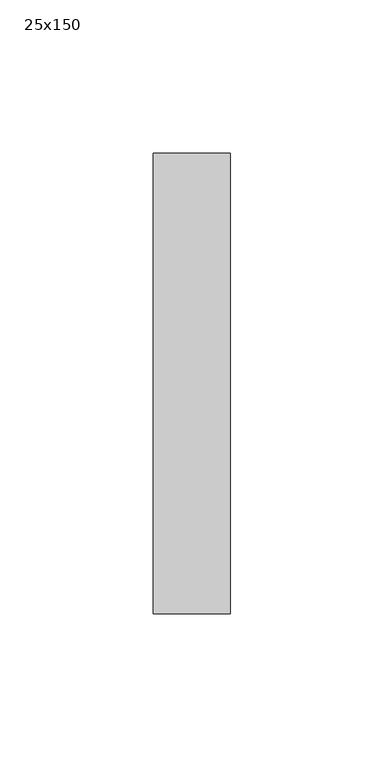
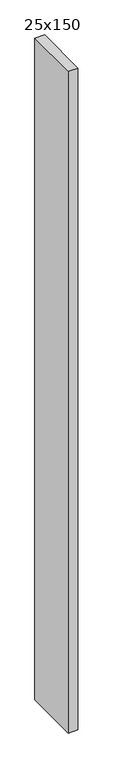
"""IFC4 building model written with IfcOpenShell, lengths in millimetres: member geometry, 長方形のマリオン : 25x150."""

from ifc_helpers import new_model, si_unit, frame, origin, place, context, project, spatial, polyline, outline, extrude, source, transform, mapped, element, save


def member_25x150_f694351b(model_context):
    return source(origin(), model_context, "Body", "SweptSolid", [
        extrude(outline(polyline([(0.0, 75.0), (0.0, -75.0), (-25.0, -75.0), (-25.0, 75.0), (0.0, 75.0)])), frame((0.0, 0.0, -1816.6666667), z_axis=(0.0, 0.0, 1.0), x_axis=(1.0, 0.0, 0.0)), (0.0, 0.0, 1.0), 1816.6666667),
    ])


if __name__ == "__main__":
    model = new_model("IFC4")
    model_context = context("Model", 3, world=origin())
    ifc_project = project(units=[si_unit("LENGTHUNIT", "METRE", prefix="MILLI")], contexts=[model_context])
    site = spatial("IfcSite", under=ifc_project)
    building = spatial("IfcBuilding", under=site)
    placement = place(None, origin())
    member_25x150_shape = member_25x150_f694351b(model_context)
    element("IfcMember", 1, ObjectType="長方形のマリオン : 25x150", at=placement, inside=building, context=model_context, shape_type="MappedRepresentation", body=[
        mapped(member_25x150_shape, transform((0.0, 0.0, 0.0), x_axis=(1.0, 0.0, 0.0), y_axis=(0.0, 1.0, 0.0), z_axis=(0.0, 0.0, 1.0))),
    ])
    save(model, "model.ifc")
